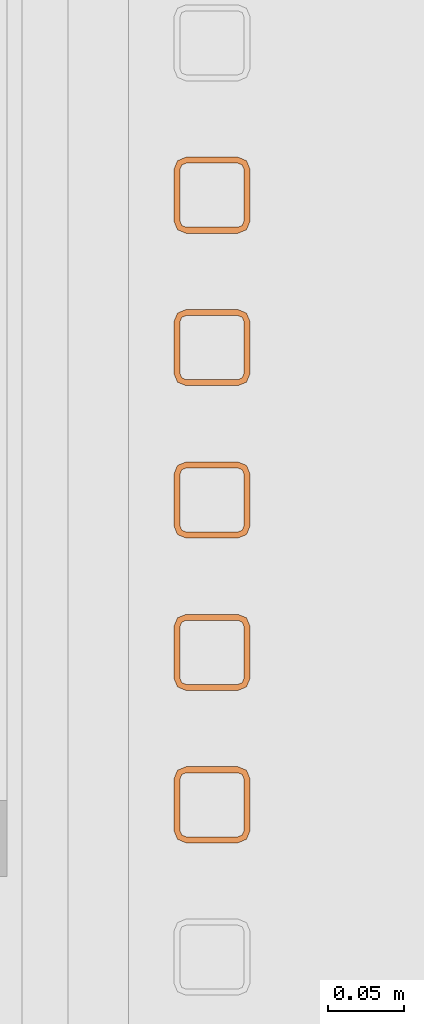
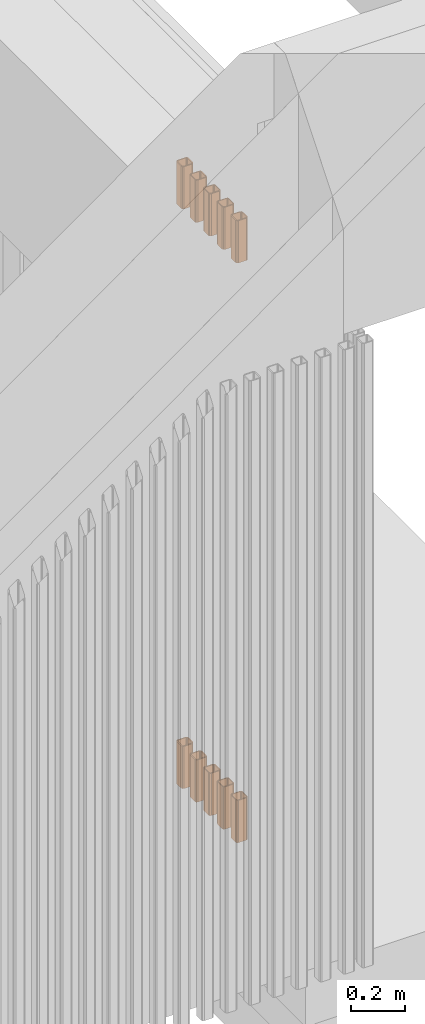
# One storey, part 88 of 112: 10 proxies.
"""IFC2X3 building model written with IfcOpenShell, lengths in millimetres."""

from ifc_helpers import new_model, entity, si_unit, converted_unit, derived_unit, money_unit, direction, frame, origin_with_axes, place, context, subcontext, project, spatial, faceted_brep, source, transform, mapped, material, type_object, element, save


model = new_model("IFC2X3")

# Units and contexts
model_context = context("Model", 3, precision=0.01, world=origin_with_axes(), true_north=direction((0.0, 1.0)))
body_context = subcontext(model_context, "Body", "Model", "MODEL_VIEW")
ifc_project = project(units=[si_unit("LENGTHUNIT", "METRE", prefix="MILLI"), si_unit("AREAUNIT", "SQUARE_METRE"), si_unit("VOLUMEUNIT", "CUBIC_METRE"), converted_unit("PLANEANGLEUNIT", "DEGREE", entity("IfcPlaneAngleMeasure", 0.0174532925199), si_unit("PLANEANGLEUNIT", "RADIAN"), dimensions=[0, 0, 0, 0, 0, 0, 0]), si_unit("SOLIDANGLEUNIT", "STERADIAN"), money_unit("EUR"), converted_unit("TIMEUNIT", "Year", entity("IfcTimeMeasure", 31556926.0), si_unit("TIMEUNIT", "SECOND"), dimensions=[0, 0, 1, 0, 0, 0, 0]), si_unit("MASSUNIT", "GRAM", prefix="KILO"), si_unit("THERMODYNAMICTEMPERATUREUNIT", "DEGREE_CELSIUS"), si_unit("LUMINOUSINTENSITYUNIT", "LUMEN"), si_unit("ENERGYUNIT", "JOULE", prefix="MEGA"), derived_unit("THERMALCONDUCTANCEUNIT", [(si_unit("POWERUNIT", "WATT"), 1), (si_unit("LENGTHUNIT", "METRE"), -1), (si_unit("THERMODYNAMICTEMPERATUREUNIT", "KELVIN"), -1)]), derived_unit("SPECIFICHEATCAPACITYUNIT", [(si_unit("ENERGYUNIT", "JOULE"), 1), (si_unit("MASSUNIT", "GRAM", prefix="KILO"), -1), (si_unit("THERMODYNAMICTEMPERATUREUNIT", "KELVIN"), -1)]), derived_unit("MASSDENSITYUNIT", [(si_unit("MASSUNIT", "GRAM", prefix="KILO"), 1), (si_unit("VOLUMEUNIT", "CUBIC_METRE"), -1)])], contexts=[model_context])

# Site, building, storey
site_placement = place(None, origin_with_axes())
site = spatial("IfcSite", under=ifc_project, at=site_placement, Name="Politse- ja Piirivalveameti ning Päästeameti ühishoone", CompositionType="ELEMENT")
building_placement = place(site_placement, origin_with_axes())
building = spatial("IfcBuilding", under=site, at=building_placement, Name="Politse- ja Piirivalveameti ning Päästeameti ühishoone", CompositionType="ELEMENT")
storey_placement = place(building_placement, origin_with_axes())
storey = spatial("IfcBuildingStorey", under=building, at=storey_placement, Name="Esimene korrus", CompositionType="ELEMENT", Elevation=0.0)

# Proxies
ifc_material = material(Name="ET-05_Teras")
building_element_proxy_type = type_object("IfcBuildingElementProxyType", Name="SHS Cold-Formed Column 23", PredefinedType="NOTDEFINED")
shared_shape = source(origin_with_axes(), body_context, "Body", "Brep", [
    faceted_brep([(-17.0, -25.0, 0.0), (17.0, -25.0, 0.0), (17.0, -25.0, 190.0), (-17.0, -25.0, 190.0), (-22.6568542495, -22.6568542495, 0.0), (-25.0, -17.0, 0.0), (-25.0, 17.0, 0.0), (-22.6568542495, 22.6568542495, 0.0), (-17.0, 25.0, 0.0), (17.0, 25.0, 0.0), (22.6568542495, 22.6568542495, 0.0), (25.0, 17.0, 0.0), (25.0, -17.0, 0.0), (22.6568542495, -22.6568542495, 0.0), (-17.0, -21.0, 0.0), (17.0, -21.0, 0.0), (19.8284271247, -19.8284271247, 0.0), (21.0, -17.0, 0.0), (21.0, 17.0, 0.0), (19.8284271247, 19.8284271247, 0.0), (17.0, 21.0, 0.0), (-17.0, 21.0, 0.0), (-19.8284271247, 19.8284271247, 0.0), (-21.0, 17.0, 0.0), (-21.0, -17.0, 0.0), (-19.8284271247, -19.8284271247, 0.0), (22.6568542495, -22.6568542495, 190.0), (25.0, -17.0, 190.0), (25.0, 17.0, 190.0), (22.6568542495, 22.6568542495, 190.0), (17.0, 25.0, 190.0), (-17.0, 25.0, 190.0), (-22.6568542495, 22.6568542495, 190.0), (-25.0, 17.0, 190.0), (-25.0, -17.0, 190.0), (-22.6568542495, -22.6568542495, 190.0), (-17.0, -21.0, 190.0), (-19.8284271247, -19.8284271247, 190.0), (-21.0, -17.0, 190.0), (-21.0, 17.0, 190.0), (-19.8284271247, 19.8284271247, 190.0), (-17.0, 21.0, 190.0), (17.0, 21.0, 190.0), (19.8284271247, 19.8284271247, 190.0), (21.0, 17.0, 190.0), (21.0, -17.0, 190.0), (19.8284271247, -19.8284271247, 190.0), (17.0, -21.0, 190.0)], [[[0, 1, 2, 3]], [[0, 4, 5, 6, 7, 8, 9, 10, 11, 12, 13, 1], [14, 15, 16, 17, 18, 19, 20, 21, 22, 23, 24, 25]], [[1, 13, 26, 2]], [[3, 2, 26, 27, 28, 29, 30, 31, 32, 33, 34, 35], [36, 37, 38, 39, 40, 41, 42, 43, 44, 45, 46, 47]], [[4, 0, 3, 35]], [[5, 4, 35, 34]], [[6, 5, 34, 33]], [[7, 6, 33, 32]], [[8, 7, 32, 31]], [[9, 8, 31, 30]], [[10, 9, 30, 29]], [[11, 10, 29, 28]], [[12, 11, 28, 27]], [[13, 12, 27, 26]], [[15, 14, 36, 47]], [[16, 15, 47, 46]], [[17, 16, 46, 45]], [[18, 17, 45, 44]], [[19, 18, 44, 43]], [[20, 19, 43, 42]], [[21, 20, 42, 41]], [[22, 21, 41, 40]], [[23, 22, 40, 39]], [[24, 23, 39, 38]], [[25, 24, 38, 37]], [[14, 25, 37, 36]]]),
])
for number, where, z_axis, x_axis in (
    (1, (68635.2095212, 750.070244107, 2600.0), (0.0, 0.0, 1.0), (1.0, 0.0, 0.0)),
    (2, (68635.2095212, 650.070244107, 2600.0), (0.0, 0.0, 1.0), (1.0, 0.0, 0.0)),
    (3, (68635.2095212, 550.070244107, 2600.0), (0.0, 0.0, 1.0), (1.0, 0.0, 0.0)),
    (4, (68635.2095212, 450.070244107, 2600.0), (0.0, 0.0, 1.0), (1.0, 0.0, 0.0)),
    (5, (68635.2095212, 350.070244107, 2600.0), (0.0, 0.0, 1.0), (1.0, 0.0, 0.0)),
    (6, (68635.2095212, 750.070244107, 0.0), (0.0, 0.0, 1.0), (1.0, 0.0, 0.0)),
    (7, (68635.2095212, 650.070244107, 0.0), (0.0, 0.0, 1.0), (1.0, 0.0, 0.0)),
    (8, (68635.2095212, 550.070244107, 0.0), (0.0, 0.0, 1.0), (1.0, 0.0, 0.0)),
    (9, (68635.2095212, 450.070244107, 0.0), (0.0, 0.0, 1.0), (1.0, 0.0, 0.0)),
    (10, (68635.2095212, 350.070244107, 0.0), (0.0, 0.0, 1.0), (1.0, 0.0, 0.0)),
):
    element("IfcBuildingElementProxy", number, at=place(storey_placement, frame(where, z_axis=z_axis, x_axis=x_axis)), inside=storey, type_object=building_element_proxy_type, material=ifc_material, Name="Fassaadiribid", context=body_context, shape_type="MappedRepresentation", body=[
        mapped(shared_shape, transform((0.0, 0.0, 0.0))),
    ])

save(model, "model.ifc")
